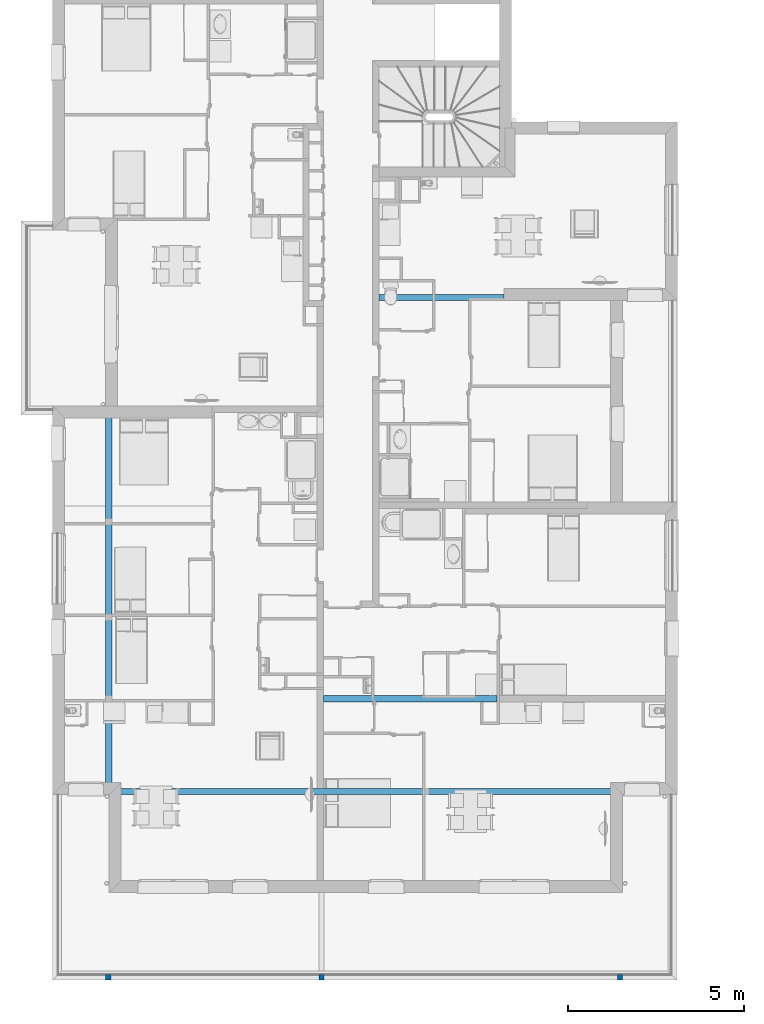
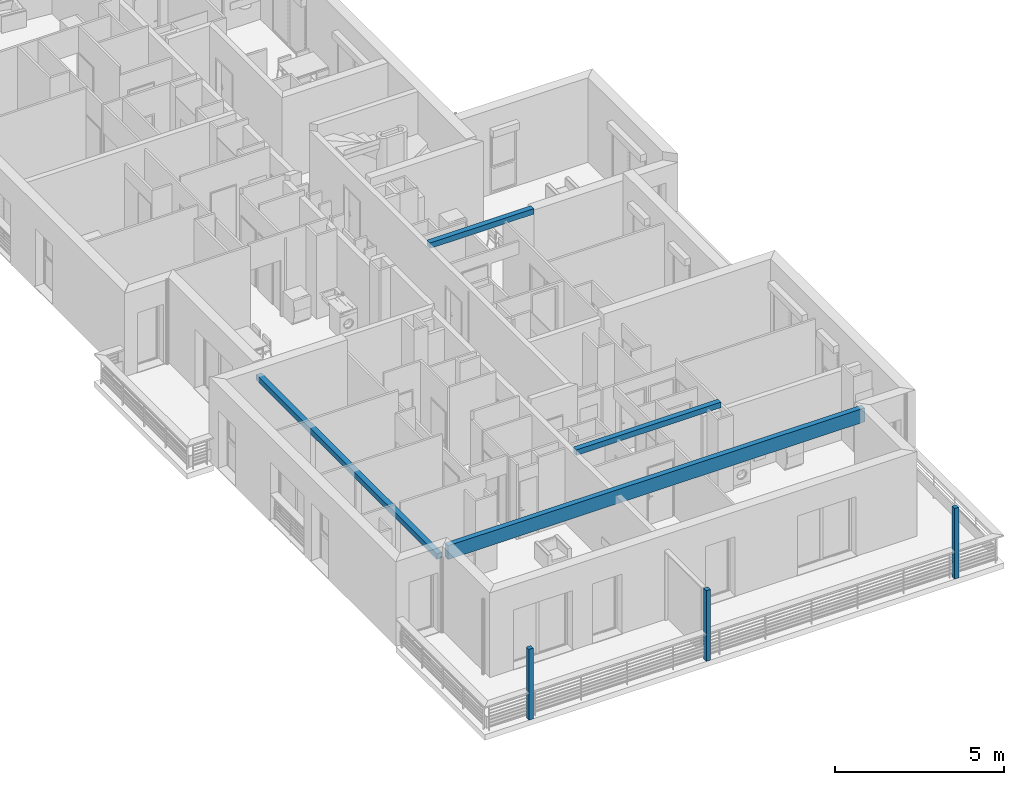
# One storey, part 1 of 165: 4 beams, 3 columns.
"""IFC2X3 building model written with IfcOpenShell, lengths in millimetres."""

from ifc_helpers import new_model, entity, si_unit, converted_unit, derived_unit, money_unit, direction, frame, frame_2d, origin_with_axes, origin_2d_with_axis, place, context, subcontext, project, spatial, rectangle, extrude, material, type_object, element, save


model = new_model("IFC2X3")

# Units and contexts
model_context = context("Model", 3, precision=0.01, world=origin_with_axes(), true_north=direction((0.0, 1.0)))
body_context = subcontext(model_context, "Body", "Model", "MODEL_VIEW")
ifc_project = project(units=[si_unit("LENGTHUNIT", "METRE", prefix="MILLI"), si_unit("AREAUNIT", "SQUARE_METRE"), si_unit("VOLUMEUNIT", "CUBIC_METRE"), converted_unit("PLANEANGLEUNIT", "DEGREE", entity("IfcPlaneAngleMeasure", 0.0174532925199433), si_unit("PLANEANGLEUNIT", "RADIAN"), dimensions=[0, 0, 0, 0, 0, 0, 0]), money_unit("USD"), converted_unit("TIMEUNIT", "Year", entity("IfcTimeMeasure", 31557600.0), si_unit("TIMEUNIT", "SECOND"), dimensions=[0, 0, 1, 0, 0, 0, 0]), si_unit("MASSUNIT", "GRAM", prefix="KILO"), si_unit("THERMODYNAMICTEMPERATUREUNIT", "DEGREE_CELSIUS"), si_unit("LUMINOUSINTENSITYUNIT", "LUMEN"), si_unit("ENERGYUNIT", "JOULE", prefix="MEGA"), derived_unit("THERMALCONDUCTANCEUNIT", [(si_unit("POWERUNIT", "WATT"), 1), (si_unit("LENGTHUNIT", "METRE"), -1), (si_unit("THERMODYNAMICTEMPERATUREUNIT", "KELVIN"), -1)]), derived_unit("SPECIFICHEATCAPACITYUNIT", [(si_unit("ENERGYUNIT", "JOULE"), 1), (si_unit("MASSUNIT", "GRAM", prefix="KILO"), -1), (si_unit("THERMODYNAMICTEMPERATUREUNIT", "KELVIN"), -1)]), derived_unit("MASSDENSITYUNIT", [(si_unit("MASSUNIT", "GRAM", prefix="KILO"), 1), (si_unit("VOLUMEUNIT", "CUBIC_METRE"), -1)])], contexts=[model_context])

# Site, building, storey
site_placement = place(None, origin_with_axes())
site = spatial("IfcSite", under=ifc_project, at=site_placement, Name="Site", CompositionType="ELEMENT")
building_placement = place(site_placement, origin_with_axes())
building = spatial("IfcBuilding", under=site, at=building_placement, Name="Bâtiment", CompositionType="ELEMENT")
storey_placement = place(building_placement, frame((0.0, 0.0, 8500.0), z_axis=(0.0, 0.0, 1.0), x_axis=(1.0, 0.0, 0.0)))
storey = spatial("IfcBuildingStorey", under=building, at=storey_placement, Name="Etage 2", CompositionType="ELEMENT", Elevation=8500.0)

# Columns
ifc_material_1 = material(Name="Minimal space 288701002")
column_type = type_object("IfcColumnType", Name="Minimal space 288701002 150 x 150", PredefinedType="NOTDEFINED")
for number, where, z_axis, x_axis, name in (
    (1, (2224262.596298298, -660223.1031596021, 0.0), (0.0, 0.0, 1.0), (0.0, -1.0, 0.0), "Pilier-018"),
    (2, (2232731.658098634, -660223.1031596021, 0.0), (0.0, 0.0, 1.0), (0.0, -1.0, 0.0), "Pilier-018"),
    (3, (2218214.233338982, -660223.1031596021, 0.0), (0.0, 0.0, 1.0), (0.0, -1.0, 0.0), "Pilier-018"),
):
    element("IfcColumn", number, at=place(storey_placement, frame(where, z_axis=z_axis, x_axis=x_axis)), inside=storey, type_object=column_type, material=ifc_material_1, Name=name, context=body_context, shape_type="SweptSolid", body=[
        extrude(rectangle(XDim=150.0, YDim=150.0, at=origin_2d_with_axis()), origin_with_axes(), (0.0, 0.0, 1.0), 2550.000000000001),
    ])

# Beams
ifc_material_2 = material(Name="Parpaing 2676271321")
beam_type_1 = type_object("IfcBeamType", Name="Parpaing 2676271321 180 x 200", PredefinedType="NOTDEFINED")
beam_1_placement = place(storey_placement, frame((2225892.31835671, -640935.3255383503, 2800.000000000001), z_axis=(0.0, 0.0, 1.0), x_axis=(0.0, -1.0, 0.0)))
element("IfcBeam", 4, at=beam_1_placement, inside=storey, type_object=beam_type_1, material=ifc_material_2, Name="Poutre-010", context=body_context, shape_type="SweptSolid", body=[
    extrude(rectangle(XDim=200.0, YDim=180.0, at=frame_2d((-100.0, 0.0), x_axis=(1.0, 0.0))), frame((0.0, 0.0, 0.0), z_axis=(0.0, 1.0, 0.0), x_axis=(0.0, 0.0, 1.0)), (0.0, 0.0, 1.0), 3542.494535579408),
])
beam_2_placement = place(storey_placement, frame((2224312.122682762, -652323.3050478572, 2800.000000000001), z_axis=(0.0, 0.0, 1.0), x_axis=(0.0, -1.0, 0.0)))
element("IfcBeam", 5, at=beam_2_placement, inside=storey, type_object=beam_type_1, material=ifc_material_2, Name="Poutre-010", context=body_context, shape_type="SweptSolid", body=[
    extrude(rectangle(XDim=200.0, YDim=180.0, at=frame_2d((-100.0, 0.0), x_axis=(1.0, 0.0))), frame((0.0, 0.0, 0.0), z_axis=(0.0, 1.0, 0.0), x_axis=(0.0, 0.0, 1.0)), (0.0, 0.0, 1.0), 4924.757860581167),
])
ifc_material_3 = material(Name="Brique 1 268964100")
beam_type_2 = type_object("IfcBeamType", Name="Brique 1 268964100 180 x 200", PredefinedType="NOTDEFINED")
beam_3_placement = place(storey_placement, frame((2218226.201344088, -644196.3765019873, 2699.999999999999), z_axis=(0.0, 0.0, 1.0), x_axis=(-1.0, 0.0, 0.0)))
element("IfcBeam", 6, at=beam_3_placement, inside=storey, type_object=beam_type_2, material=ifc_material_3, Name="Poutre-010", context=body_context, shape_type="SweptSolid", body=[
    extrude(rectangle(XDim=200.0, YDim=180.0, at=frame_2d((-100.0, 0.0), x_axis=(1.0, 0.0))), frame((0.0, 0.0, 0.0), z_axis=(0.0, 1.0, 0.0), x_axis=(0.0, 0.0, 1.0)), (0.0, 0.0, 1.0), 10665.0912763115),
])
beam_type_3 = type_object("IfcBeamType", Name="Parpaing 2676271321 180 x 500", PredefinedType="NOTDEFINED")
beam_4_placement = place(storey_placement, frame((2232626.692504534, -654951.4677782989, 3000.001201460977), z_axis=(0.0, 0.0, 1.0), x_axis=(0.0, 1.0, 0.0)))
element("IfcBeam", 7, at=beam_4_placement, inside=storey, type_object=beam_type_3, material=ifc_material_2, Name="Poutre-010", context=body_context, shape_type="SweptSolid", body=[
    extrude(rectangle(XDim=500.0012016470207, YDim=180.0, at=frame_2d((-250.0006008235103, 0.0), x_axis=(1.0, 0.0))), frame((0.0, 0.0, 0.0), z_axis=(0.0, 1.0, 0.0), x_axis=(0.0, 0.0, 1.0)), (0.0, 0.0, 1.0), 14212.45916598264),
])

save(model, "model.ifc")
